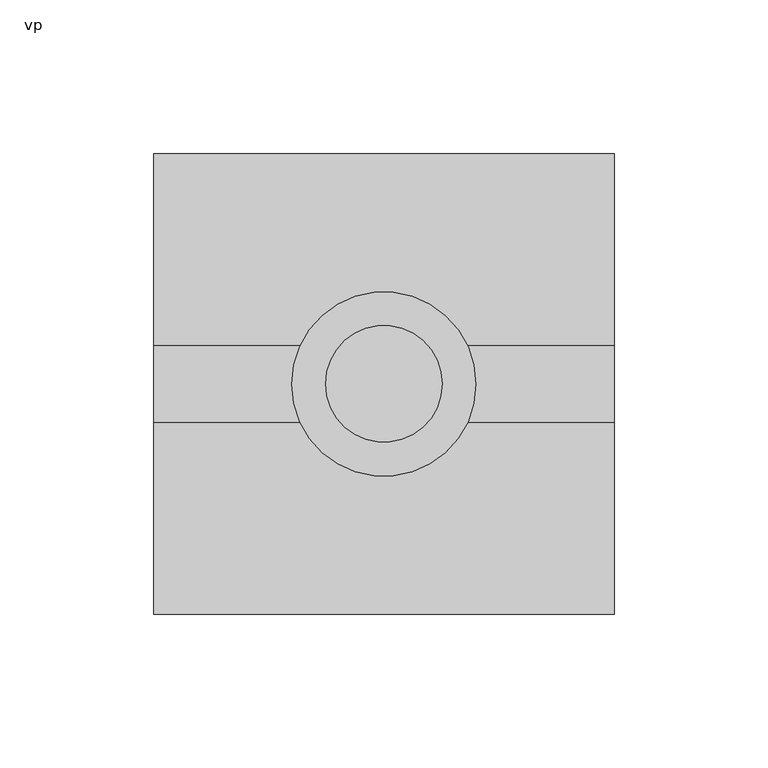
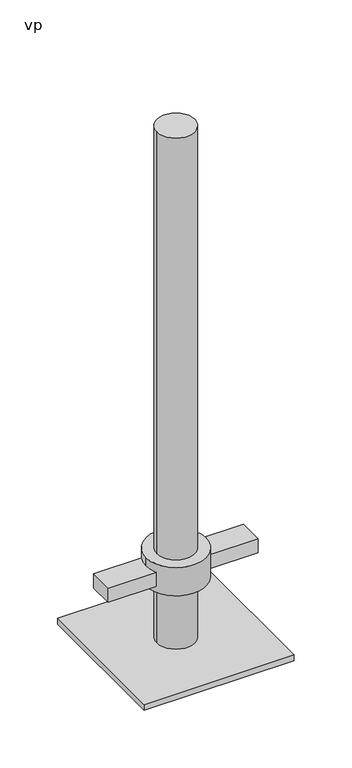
"""IFC4 building model written with IfcOpenShell, lengths in millimetres: proxy geometry, MILLS_ACRAM_VERIN_DE_PIED : vp."""

from ifc_helpers import new_model, si_unit, point, frame, frame_2d, origin, origin_with_axes, place, context, project, spatial, polyline, circle_curve, trimmed, segment, composite_curve, outline, extrude, source, transform, mapped, element, save


def vp_4bdc5f6d(model_context):
    return source(origin(), model_context, "Body", "SweptSolid", [
        extrude(outline(polyline([(-500.1723051, -12.5), (-500.1723051, 12.5), (-350.1723051, 12.5), (-350.1723051, -12.5), (-500.1723051, -12.5)])), frame((0.0, 0.0, 76.0), z_axis=(0.0, 0.0, 1.0), x_axis=(1.0, 0.0, 0.0)), (0.0, 0.0, 1.0), 15.0),
        extrude(outline(composite_curve([segment(trimmed(circle_curve(frame_2d((-425.1723051, 0.0)), 30.0), [point((-455.1723051, 0.0))], [point((-395.1723051, 0.0))], False, "CARTESIAN"), True, "CONTINUOUS"), segment(trimmed(circle_curve(frame_2d((-425.1723051, 0.0)), 30.0), [point((-395.1723051, 0.0))], [point((-455.1723051, 0.0))], False, "CARTESIAN"), True, "CONTINUOUS")], self_intersect=False)), frame((0.0, 0.0, 70.0), z_axis=(0.0, 0.0, 1.0), x_axis=(1.0, 0.0, 0.0)), (0.0, 0.0, 1.0), 30.0),
        extrude(outline(composite_curve([segment(trimmed(circle_curve(frame_2d((-425.1723051, 0.0)), 19.0), [point((-444.1723051, 0.0))], [point((-406.1723051, 0.0))], False, "CARTESIAN"), True, "CONTINUOUS"), segment(trimmed(circle_curve(frame_2d((-425.1723051, 0.0)), 19.0), [point((-406.1723051, 0.0))], [point((-444.1723051, 0.0))], False, "CARTESIAN"), True, "CONTINUOUS")], self_intersect=False)), frame((0.0, 0.0, 6.0), z_axis=(0.0, 0.0, 1.0), x_axis=(1.0, 0.0, 0.0)), (0.0, 0.0, 1.0), 540.0),
        extrude(outline(polyline([(-350.1723051, 75.0), (-350.1723051, -75.0), (-500.1723051, -75.0), (-500.1723051, 75.0), (-350.1723051, 75.0)])), origin_with_axes(), (0.0, 0.0, 1.0), 6.0),
    ])


if __name__ == "__main__":
    model = new_model("IFC4")
    model_context = context("Model", 3, world=origin())
    ifc_project = project(units=[si_unit("LENGTHUNIT", "METRE", prefix="MILLI")], contexts=[model_context])
    site = spatial("IfcSite", under=ifc_project)
    building = spatial("IfcBuilding", under=site)
    placement = place(None, origin())
    vp_shape = vp_4bdc5f6d(model_context)
    element("IfcBuildingElementProxy", 1, Name="MILLS_ACRAM_VERIN_DE_PIED : vp", ObjectType="MILLS_ACRAM_VERIN_DE_PIED : vp", at=placement, inside=building, context=model_context, shape_type="MappedRepresentation", body=[
        mapped(vp_shape, transform((0.0, 0.0, 0.0), x_axis=(1.0, 0.0, 0.0), y_axis=(0.0, 1.0, 0.0), z_axis=(0.0, 0.0, 1.0))),
    ])
    save(model, "model.ifc")
